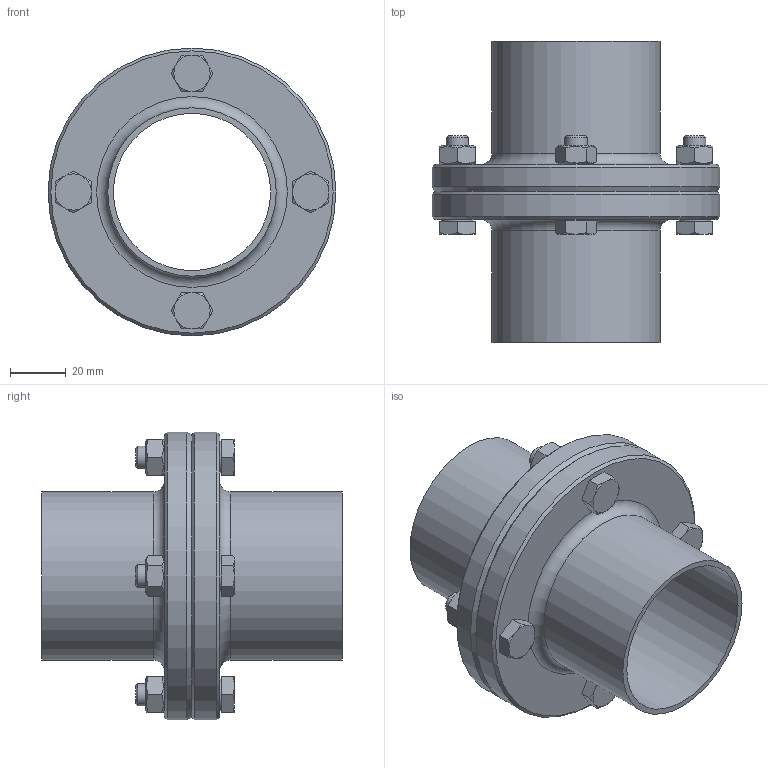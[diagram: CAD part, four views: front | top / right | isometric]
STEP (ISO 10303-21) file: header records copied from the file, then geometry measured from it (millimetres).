
FILE_DESCRIPTION(/* description */ ('DIN11864-2-A_60,3x2_L108_Fl103'),/* implementation_level */ '2;1');
FILE_NAME(/* name */ 'DIN11864-2-A_60,3x2_L108_Fl103.stp',/* time_stamp */ '2015-01-07T13:14:51+01:00',/* author */ ('DOCKWEILER AG'),/* organization */ ('DOCKWEILER AG'),/* preprocessor_version */ 'ST-DEVELOPER v15.6',/* originating_system */ 'Autodesk Inventor 2015',/* authorisation */ '');
FILE_SCHEMA (('CONFIG_CONTROL_DESIGN'));
Length unit declared in the file: millimetre
Products named in the file (6): N0003_007_003_20; N0003_007_004_20; N005_005_002_001_19; ISO 4032 - M8ISO; ISO 4017 - M8 x 30ISO; N0024_002_002
Assembly tree (11 placements, depth 2):
  N0024_002_002
    N0003_007_003_20
    N0003_007_004_20
    N005_005_002_001_19
    ISO 4032 - M8ISO  x4
    ISO 4017 - M8 x 30ISO  x4
Bounding box: 103 x 107.7 x 103 mm (x, y, z)
Volume: 155029.7 mm3; surface area: 76926.1 mm2
Topology: 11 solids, 11 shells, 174 faces, 362 edges, 222 vertices
Faces by surface type: plane 82, cone 52, cylinder 28, torus 12
Full cylindrical faces by diameter (mm): 6.647 x4, 8 x4, 9 x8, 11.63 x4, 56.3 x2, 60.3 x2, 71.9 x1, 72 x1, 103 x2
Entity records: 2080 total; most frequent: DIRECTION 352, CARTESIAN_POINT 352, ORIENTED_EDGE 228, AXIS2_PLACEMENT_3D 167, EDGE_LOOP 151, EDGE_CURVE 114, VERTEX_POINT 95, FACE_OUTER_BOUND 78
